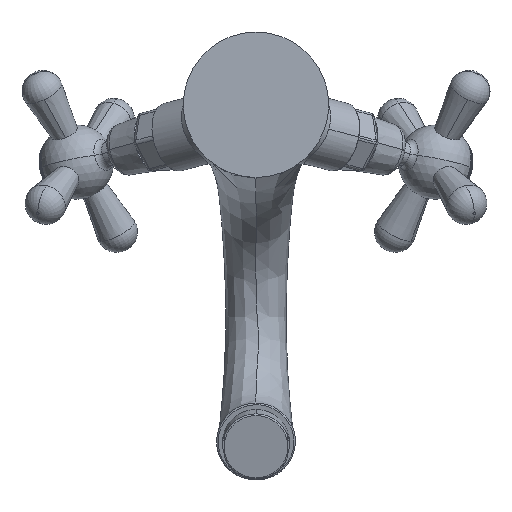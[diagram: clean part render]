
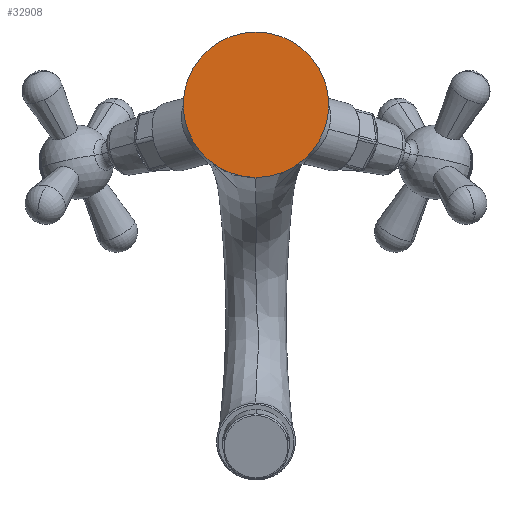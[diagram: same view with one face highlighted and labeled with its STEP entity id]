
A CAD part, front view. The second image highlights one B-rep face of the part: STEP entity #32908.
In plain terms, the highlighted planar face has unit normal (0, -1, 0).
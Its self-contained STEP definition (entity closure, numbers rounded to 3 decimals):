
#427 = DIRECTION ( 'NONE',  ( 0., 0., 1. ) ) ;
#3851 = CIRCLE ( 'NONE', #9434, 49. ) ;
#4221 = AXIS2_PLACEMENT_3D ( 'NONE', #14247, #21759, #29410 ) ;
#5010 = ORIENTED_EDGE ( 'NONE', *, *, #18311, .F. ) ;
#9219 = CARTESIAN_POINT ( 'NONE',  ( 0., 0., 0. ) ) ;
#9434 = AXIS2_PLACEMENT_3D ( 'NONE', #9219, #9837, #16683 ) ;
#9837 = DIRECTION ( 'NONE',  ( 0., 1., 0. ) ) ;
#10144 = AXIS2_PLACEMENT_3D ( 'NONE', #15557, #18824, #427 ) ;
#14247 = CARTESIAN_POINT ( 'NONE',  ( 0., 0., 0. ) ) ;
#15557 = CARTESIAN_POINT ( 'NONE',  ( 0., 0., 0. ) ) ;
#16683 = DIRECTION ( 'NONE',  ( 0., 0., 1. ) ) ;
#18311 = EDGE_CURVE ( 'NONE', #25517, #35668, #3851, .T. ) ;
#18824 = DIRECTION ( 'NONE',  ( 0., 1., 0. ) ) ;
#21759 = DIRECTION ( 'NONE',  ( 0., 1., 0. ) ) ;
#25517 = VERTEX_POINT ( 'NONE', #46499 ) ;
#28048 = CIRCLE ( 'NONE', #10144, 49. ) ;
#29410 = DIRECTION ( 'NONE',  ( 0., 0., 1. ) ) ;
#32708 = FACE_OUTER_BOUND ( 'NONE', #47329, .T. ) ;
#32908 = ADVANCED_FACE ( 'NONE', ( #32708 ), #36554, .F. ) ;
#32950 = EDGE_CURVE ( 'NONE', #35668, #25517, #28048, .T. ) ;
#35668 = VERTEX_POINT ( 'NONE', #47631 ) ;
#36554 = PLANE ( 'NONE',  #4221 ) ;
#46499 = CARTESIAN_POINT ( 'NONE',  ( 0., 0., 49. ) ) ;
#47251 = ORIENTED_EDGE ( 'NONE', *, *, #32950, .F. ) ;
#47329 = EDGE_LOOP ( 'NONE', ( #5010, #47251 ) ) ;
#47631 = CARTESIAN_POINT ( 'NONE',  ( 0., 0., -49. ) ) ;
